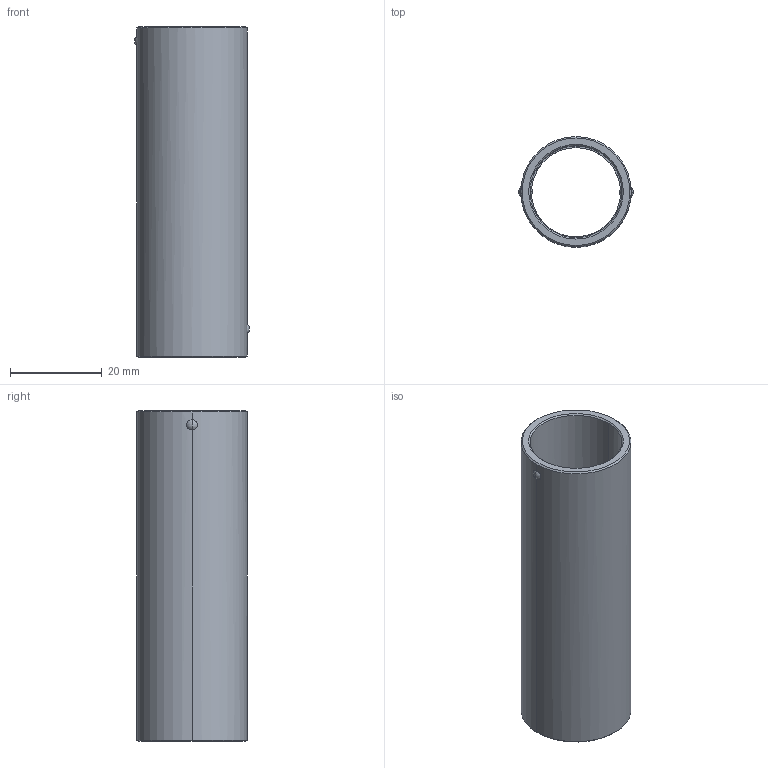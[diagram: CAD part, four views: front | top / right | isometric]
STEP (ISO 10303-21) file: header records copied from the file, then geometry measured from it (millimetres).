
FILE_DESCRIPTION(('CATIA V5 STEP Exchange'),'2;1');
FILE_NAME('C:\Users\Utente\Desktop\IO LAVORO\3D X SITO CF\X SITO\730\730-19x72.stp','2021-01-07T16:17:29+00:00',('none'),('none'),'CATIA Version 5 Release 20 GA (IN-10)','CATIA V5 STEP AP203','none');
FILE_SCHEMA(('CONFIG_CONTROL_DESIGN'));
Length unit declared in the file: millimetre
Products named in the file (1): 730-19x72
Bounding box: 25 x 24 x 72 mm (x, y, z)
Volume: 9546 mm3; surface area: 10382 mm2
Topology: 1 solids, 1 shells, 44 faces, 120 edges, 76 vertices
Faces by surface type: cylinder 18, cone 10, plane 8, sphere 8
Entity records: 1743 total; most frequent: CARTESIAN_POINT 680, ORIENTED_EDGE 240, DIRECTION 159, EDGE_CURVE 120, AXIS2_PLACEMENT_3D 78, VERTEX_POINT 76, B_SPLINE_CURVE_WITH_KNOTS 49, EDGE_LOOP 48
